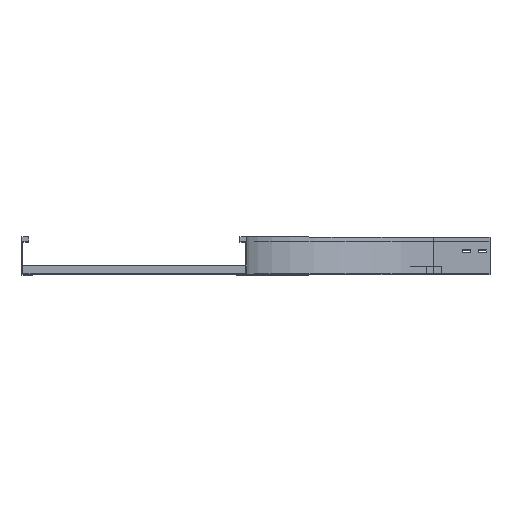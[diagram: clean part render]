
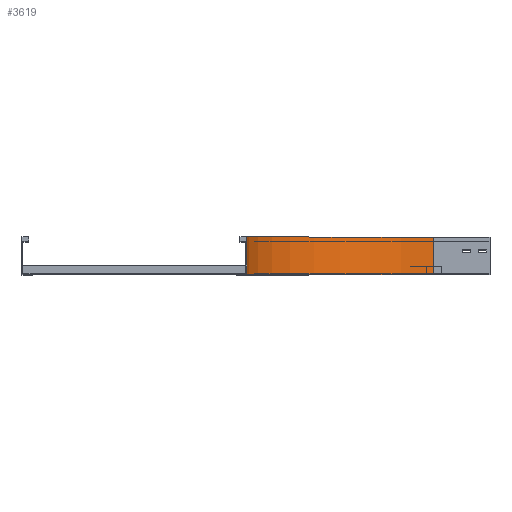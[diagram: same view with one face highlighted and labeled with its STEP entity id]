
A CAD part, top view. The second image highlights one B-rep face of the part: STEP entity #3619.
In plain terms, the highlighted cylindrical face has radius 500 mm (diameter 1000 mm), a partial arc.
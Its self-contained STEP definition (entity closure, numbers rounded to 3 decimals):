
#276 = DIRECTION ( 'NONE',  ( -1., 0., 0. ) ) ;
#312 = CARTESIAN_POINT ( 'NONE',  ( 500., 0., -150. ) ) ;
#439 = CARTESIAN_POINT ( 'NONE',  ( 0., 0., -150. ) ) ;
#571 = CARTESIAN_POINT ( 'NONE',  ( 0., 0., -150. ) ) ;
#641 = DIRECTION ( 'NONE',  ( 0., -1., 0. ) ) ;
#695 = CIRCLE ( 'NONE', #1663, 500. ) ;
#830 = LINE ( 'NONE', #439, #1695 ) ;
#954 = EDGE_CURVE ( 'NONE', #4156, #2297, #4189, .T. ) ;
#965 = AXIS2_PLACEMENT_3D ( 'NONE', #4247, #1264, #276 ) ;
#1264 = DIRECTION ( 'NONE',  ( 0., -1., 0. ) ) ;
#1553 = EDGE_CURVE ( 'NONE', #1671, #1834, #830, .T. ) ;
#1562 = CARTESIAN_POINT ( 'NONE',  ( 0., 100., -150. ) ) ;
#1663 = AXIS2_PLACEMENT_3D ( 'NONE', #2082, #3405, #4071 ) ;
#1670 = CARTESIAN_POINT ( 'NONE',  ( 500., 0., -650. ) ) ;
#1671 = VERTEX_POINT ( 'NONE', #571 ) ;
#1695 = VECTOR ( 'NONE', #4125, 1000. ) ;
#1834 = VERTEX_POINT ( 'NONE', #1562 ) ;
#1988 = ORIENTED_EDGE ( 'NONE', *, *, #1553, .F. ) ;
#1995 = CARTESIAN_POINT ( 'NONE',  ( 500., 100., -650. ) ) ;
#2082 = CARTESIAN_POINT ( 'NONE',  ( 500., 100., -150. ) ) ;
#2177 = DIRECTION ( 'NONE',  ( 0., 1., 0. ) ) ;
#2199 = CARTESIAN_POINT ( 'NONE',  ( 500., 0., -650. ) ) ;
#2296 = CIRCLE ( 'NONE', #965, 500. ) ;
#2297 = VERTEX_POINT ( 'NONE', #1995 ) ;
#2347 = ORIENTED_EDGE ( 'NONE', *, *, #2888, .F. ) ;
#2576 = DIRECTION ( 'NONE',  ( 0., 0., -1. ) ) ;
#2592 = EDGE_CURVE ( 'NONE', #1671, #4156, #2296, .T. ) ;
#2708 = AXIS2_PLACEMENT_3D ( 'NONE', #312, #641, #2576 ) ;
#2849 = ORIENTED_EDGE ( 'NONE', *, *, #2592, .T. ) ;
#2888 = EDGE_CURVE ( 'NONE', #1834, #2297, #695, .T. ) ;
#2890 = VECTOR ( 'NONE', #2177, 1000. ) ;
#3067 = ORIENTED_EDGE ( 'NONE', *, *, #954, .T. ) ;
#3405 = DIRECTION ( 'NONE',  ( 0., -1., 0. ) ) ;
#3525 = CYLINDRICAL_SURFACE ( 'NONE', #2708, 500. ) ;
#3602 = FACE_OUTER_BOUND ( 'NONE', #3822, .T. ) ;
#3619 = ADVANCED_FACE ( 'NONE', ( #3602 ), #3525, .F. ) ;
#3822 = EDGE_LOOP ( 'NONE', ( #2347, #1988, #2849, #3067 ) ) ;
#4071 = DIRECTION ( 'NONE',  ( -1., 0., 0. ) ) ;
#4125 = DIRECTION ( 'NONE',  ( 0., 1., 0. ) ) ;
#4156 = VERTEX_POINT ( 'NONE', #1670 ) ;
#4189 = LINE ( 'NONE', #2199, #2890 ) ;
#4247 = CARTESIAN_POINT ( 'NONE',  ( 500., 0., -150. ) ) ;
